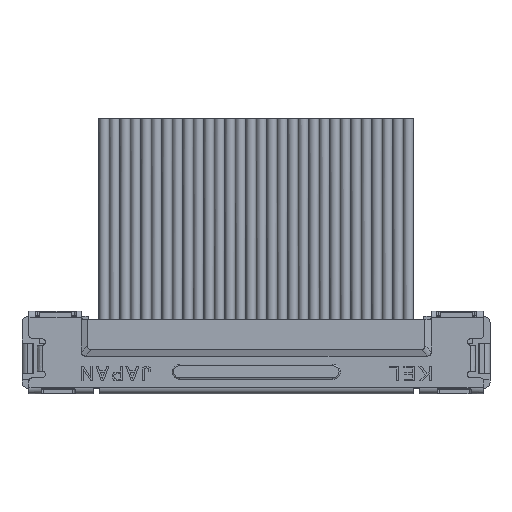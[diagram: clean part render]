
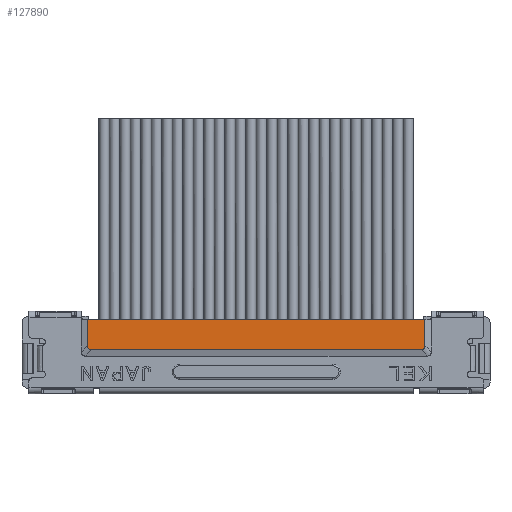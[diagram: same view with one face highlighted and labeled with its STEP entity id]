
A CAD part, top view. The second image highlights one B-rep face of the part: STEP entity #127890.
In plain terms, the highlighted planar face has unit normal (0, 0, 1).
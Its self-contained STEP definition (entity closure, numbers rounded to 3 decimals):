
#123200=CARTESIAN_POINT('',(-8.475,0.535,0.36));
#123210=DIRECTION('',(0.,1.,0.));
#123220=VECTOR('',#123210,1.);
#123230=LINE('',#123200,#123220);
#123240=CARTESIAN_POINT('',(-8.475,0.32,0.36));
#123250=VERTEX_POINT('',#123240);
#123260=CARTESIAN_POINT('',(-8.475,0.945,0.36));
#123270=VERTEX_POINT('',#123260);
#123280=EDGE_CURVE('',#123250,#123270,#123230,.T.);
#127030=CARTESIAN_POINT('',(-20.829,0.945,0.36));
#127040=DIRECTION('',(1.,0.,0.));
#127050=VECTOR('',#127040,1.);
#127060=LINE('',#127030,#127050);
#127070=CARTESIAN_POINT('',(-16.51,0.945,0.36));
#127080=VERTEX_POINT('',#127070);
#127090=EDGE_CURVE('',#127080,#123270,#127060,.T.);
#127480=CARTESIAN_POINT('',(-12.146,0.64,0.36));
#127490=DIRECTION('',(0.,0.,1.));
#127500=DIRECTION('',(1.,0.,0.));
#127510=AXIS2_PLACEMENT_3D('',#127480,#127490,#127500);
#127520=PLANE('',#127510);
#127530=ORIENTED_EDGE('',*,*,#123280,.T.);
#127540=CARTESIAN_POINT('',(-9.424,1.174,0.36));
#127550=DIRECTION('',(0.,0.,-1.));
#127560=DIRECTION('',(-0.707,0.707,0.));
#127570=AXIS2_PLACEMENT_3D('',#127540,#127550,#127560);
#127580=ELLIPSE('',#127570,1.308,0.3);
#127590=CARTESIAN_POINT('',(-8.57,0.225,0.36));
#127600=VERTEX_POINT('',#127590);
#127610=EDGE_CURVE('',#123250,#127600,#127580,.T.);
#127620=ORIENTED_EDGE('',*,*,#127610,.F.);
#127630=CARTESIAN_POINT('',(-12.575,0.225,0.36));
#127640=DIRECTION('',(1.,0.,0.));
#127650=VECTOR('',#127640,1.);
#127660=LINE('',#127630,#127650);
#127670=CARTESIAN_POINT('',(-16.415,0.225,0.36));
#127680=VERTEX_POINT('',#127670);
#127690=EDGE_CURVE('',#127680,#127600,#127660,.T.);
#127700=ORIENTED_EDGE('',*,*,#127690,.T.);
#127710=CARTESIAN_POINT('',(-15.561,1.174,0.36));
#127720=DIRECTION('',(0.,0.,1.));
#127730=DIRECTION('',(0.707,0.707,0.));
#127740=AXIS2_PLACEMENT_3D('',#127710,#127720,#127730);
#127750=ELLIPSE('',#127740,1.308,0.3);
#127760=CARTESIAN_POINT('',(-16.51,0.32,0.36));
#127770=VERTEX_POINT('',#127760);
#127780=EDGE_CURVE('',#127770,#127680,#127750,.T.);
#127790=ORIENTED_EDGE('',*,*,#127780,.T.);
#127800=CARTESIAN_POINT('',(-16.51,0.535,0.36));
#127810=DIRECTION('',(0.,1.,0.));
#127820=VECTOR('',#127810,1.);
#127830=LINE('',#127800,#127820);
#127840=EDGE_CURVE('',#127770,#127080,#127830,.T.);
#127850=ORIENTED_EDGE('',*,*,#127840,.F.);
#127860=ORIENTED_EDGE('',*,*,#127090,.F.);
#127870=EDGE_LOOP('',(#127860,#127850,#127790,#127700,#127620,#127530));
#127880=FACE_OUTER_BOUND('',#127870,.T.);
#127890=ADVANCED_FACE('',(#127880),#127520,.T.);
